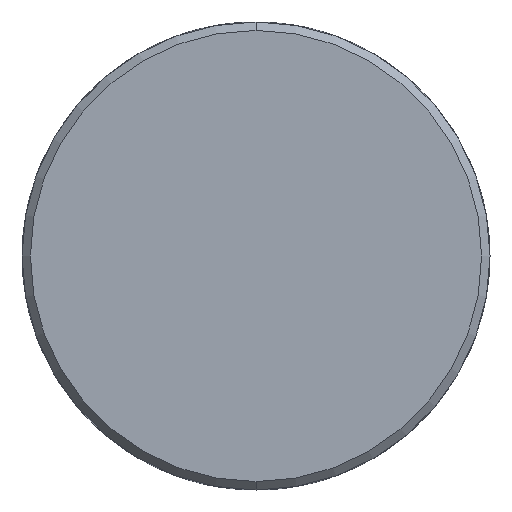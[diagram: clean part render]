
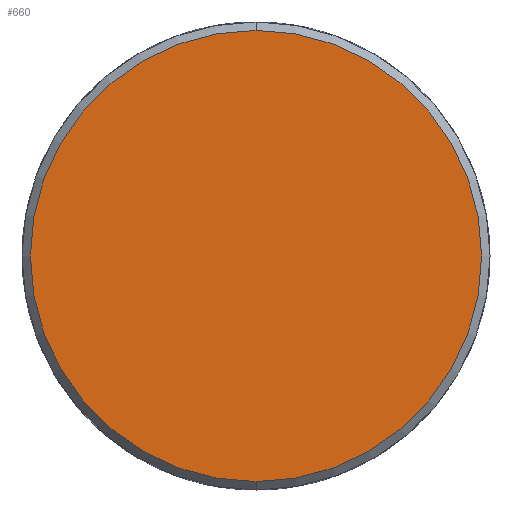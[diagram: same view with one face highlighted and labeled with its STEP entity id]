
A CAD part, front view. The second image highlights one B-rep face of the part: STEP entity #660.
In plain terms, the highlighted planar face has unit normal (0, -1, 0).
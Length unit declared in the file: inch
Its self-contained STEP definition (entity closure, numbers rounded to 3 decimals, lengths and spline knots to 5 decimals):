
#622 = EDGE_CURVE ( 'NONE', #898, #924, #2304, .T. ) ;
#632 = ORIENTED_EDGE ( 'NONE', *, *, #897, .T. ) ;
#658 = EDGE_LOOP ( 'NONE', ( #659, #632 ) ) ;
#659 = ORIENTED_EDGE ( 'NONE', *, *, #622, .T. ) ;
#660 = ADVANCED_FACE ( 'NONE', ( #2320 ), #2319, .F. ) ;
#897 = EDGE_CURVE ( 'NONE', #924, #898, #2842, .T. ) ;
#898 = VERTEX_POINT ( 'NONE', #2837 ) ;
#924 = VERTEX_POINT ( 'NONE', #2849 ) ;
#2300 = DIRECTION ( 'NONE',  ( 0., 0., 1. ) ) ;
#2301 = DIRECTION ( 'NONE',  ( 0., -1., 0. ) ) ;
#2302 = CARTESIAN_POINT ( 'NONE',  ( 0., 0., 0. ) ) ;
#2303 = AXIS2_PLACEMENT_3D ( 'NONE', #2302, #2301, #2300 ) ;
#2304 = CIRCLE ( 'NONE', #2303, 1.663 ) ;
#2314 = DIRECTION ( 'NONE',  ( 0., 0., 1. ) ) ;
#2315 = DIRECTION ( 'NONE',  ( 0., 1., 0. ) ) ;
#2316 = AXIS2_PLACEMENT_3D ( 'NONE', #2318, #2315, #2314 ) ;
#2318 = CARTESIAN_POINT ( 'NONE',  ( 0., 0., 0. ) ) ;
#2319 = PLANE ( 'NONE',  #2316 ) ;
#2320 = FACE_OUTER_BOUND ( 'NONE', #658, .T. ) ;
#2837 = CARTESIAN_POINT ( 'NONE',  ( 0., 0., 1.663 ) ) ;
#2838 = DIRECTION ( 'NONE',  ( 0., 0., 1. ) ) ;
#2839 = DIRECTION ( 'NONE',  ( 0., -1., 0. ) ) ;
#2840 = CARTESIAN_POINT ( 'NONE',  ( 0., 0., 0. ) ) ;
#2841 = AXIS2_PLACEMENT_3D ( 'NONE', #2840, #2839, #2838 ) ;
#2842 = CIRCLE ( 'NONE', #2841, 1.663 ) ;
#2849 = CARTESIAN_POINT ( 'NONE',  ( 0., 0., -1.663 ) ) ;
